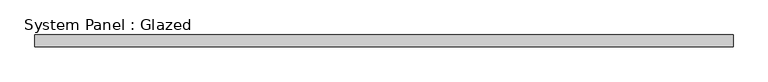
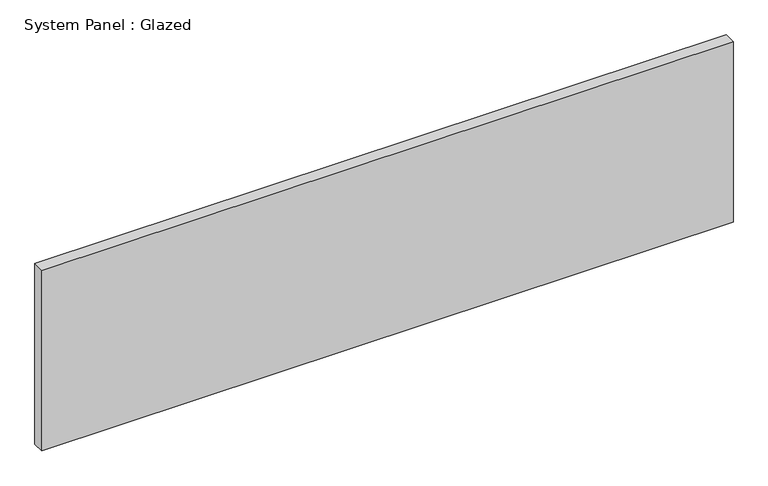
"""IFC4 building model written with IfcOpenShell, lengths in millimetres: plate geometry, System Panel : Glazed."""

from ifc_helpers import new_model, si_unit, origin, origin_with_axes, place, context, project, spatial, polyline, outline, extrude, source, transform, mapped, element, save


def system_panel_glazed_f6cf1eac(model_context):
    return source(origin(), model_context, "Body", "SweptSolid", [
        extrude(outline(polyline([(736.9999999, 24.5), (-736.9999999, 24.5), (-736.9999999, 49.5), (736.9999999, 49.5), (736.9999999, 24.5)])), origin_with_axes(), (0.0, 0.0, 1.0), 407.2),
    ])


if __name__ == "__main__":
    model = new_model("IFC4")
    model_context = context("Model", 3, world=origin())
    ifc_project = project(units=[si_unit("LENGTHUNIT", "METRE", prefix="MILLI")], contexts=[model_context])
    site = spatial("IfcSite", under=ifc_project)
    building = spatial("IfcBuilding", under=site)
    placement = place(None, origin())
    system_panel_glazed_shape = system_panel_glazed_f6cf1eac(model_context)
    element("IfcPlate", 1, ObjectType="System Panel : Glazed", at=placement, inside=building, context=model_context, shape_type="MappedRepresentation", body=[
        mapped(system_panel_glazed_shape, transform((0.0, 0.0, 0.0), x_axis=(1.0, 0.0, 0.0), y_axis=(0.0, 1.0, 0.0), z_axis=(0.0, 0.0, 1.0))),
    ])
    save(model, "model.ifc")
